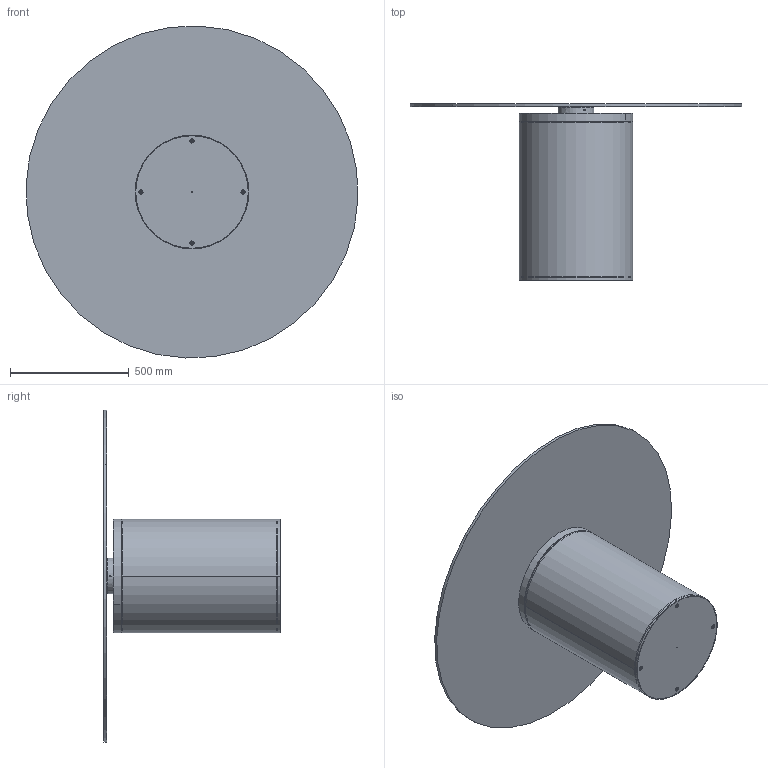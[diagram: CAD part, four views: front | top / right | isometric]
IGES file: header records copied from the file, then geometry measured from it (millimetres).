
Start section: SolidWorks IGES file using analytic representation for surfaces
Global section: file name: Y:\eforma\TECNICO\SOLIDWORKS\E-FORMA\1-TAVOLI\CILINDRO\02 parts\CI06G.IGS; native system: SolidWorks 2022; preprocessor: SolidWorks 2022; author: eforma.tech; date: 240808.084949; units: millimetre
Bounding box: 1398.96 x 744 x 1398.96 mm (x, y, z)
Volume: 29868524.1 mm3; surface area: 6402495.2 mm2
Topology: 26 solids, 26 shells, 711 faces, 1612 edges, 932 vertices
Faces by surface type: revolution 420, plane 282, bspline 9
